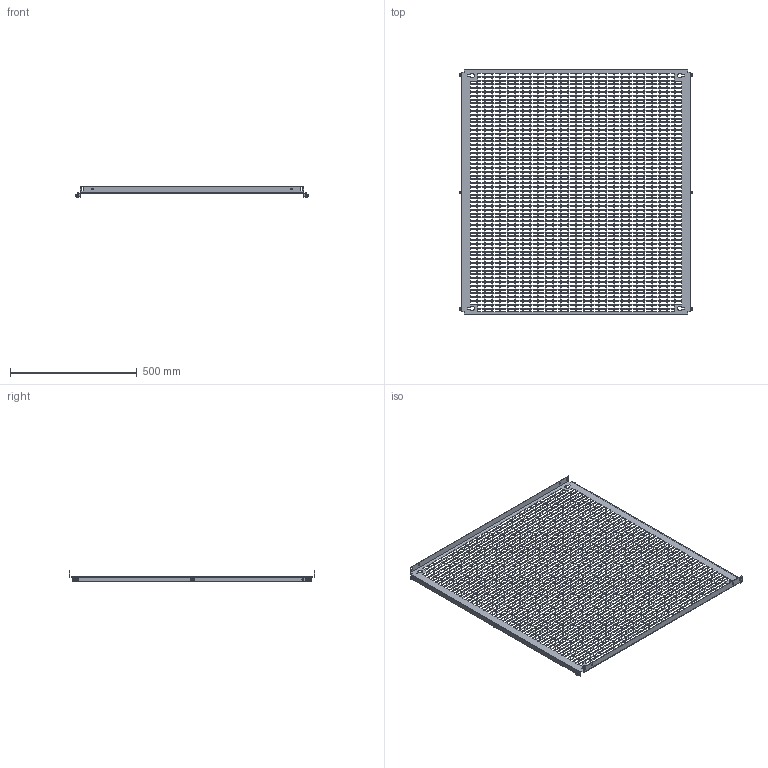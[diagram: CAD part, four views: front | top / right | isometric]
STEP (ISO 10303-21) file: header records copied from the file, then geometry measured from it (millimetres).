
FILE_DESCRIPTION(('Open CASCADE Model'),'2;1');
FILE_NAME('Open CASCADE Shape Model','2025-02-19T16:55:38',('Author'),( 'Open CASCADE'),'Open CASCADE STEP processor 7.8','Open CASCADE 7.8' ,'Unknown');
FILE_SCHEMA(('AUTOMOTIVE_DESIGN { 1 0 10303 214 1 1 1 1 }'));
Length unit declared in the file: millimetre
Products named in the file (4): Compound1; Solid1; Solid2; Solid3
Assembly tree (13 placements, depth 2):
  Compound1
    Solid1
    Solid2  x6
    Solid3  x6
Bounding box: 920 x 969 x 43 mm (x, y, z)
Volume: 892474.3 mm3; surface area: 1160567.3 mm2
Topology: 13 solids, 13 shells, 7422 faces, 22010 edges, 14620 vertices
Faces by surface type: plane 7192, cone 102, bspline 72, cylinder 38, torus 18
Full cylindrical faces by diameter (mm): 5 x6, 6 x12, 7 x16
Entity records: 243724 total; most frequent: CARTESIAN_POINT 43507, ORIENTED_EDGE 42890, DIRECTION 35764, EDGE_CURVE 21445, LINE 21280, VECTOR 21280, VERTEX_POINT 14290, FACE_BOUND 10725
